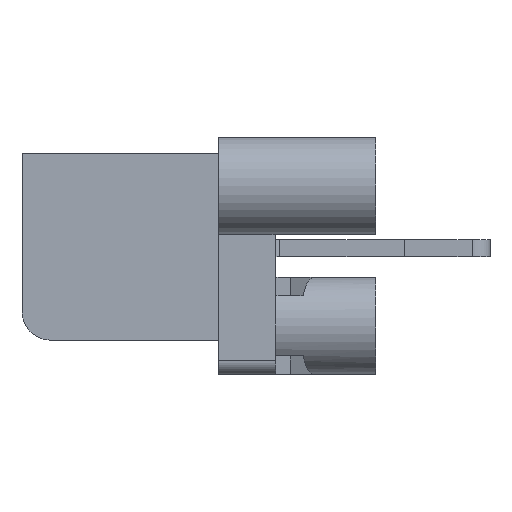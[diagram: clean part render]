
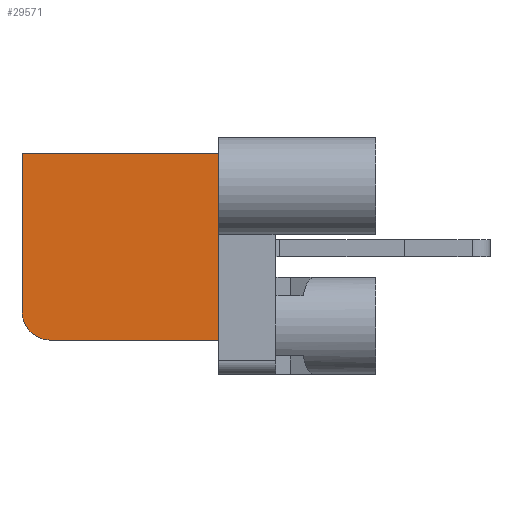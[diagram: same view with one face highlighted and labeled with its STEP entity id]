
A CAD part, left-side view. The second image highlights one B-rep face of the part: STEP entity #29571.
In plain terms, the highlighted planar face has unit normal (-1, 0, 0).
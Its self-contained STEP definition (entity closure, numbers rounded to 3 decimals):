
#11072=DIRECTION('',(0.,-1.,0.));
#11073=VECTOR('',#11072,11.8);
#11074=CARTESIAN_POINT('',(9.3,22.8,-14.15));
#11075=LINE('',#11074,#11073);
#11076=CARTESIAN_POINT('',(9.3,22.8,-12.15));
#11077=DIRECTION('',(-1.,0.,0.));
#11078=DIRECTION('',(0.,1.,0.));
#11079=AXIS2_PLACEMENT_3D('',#11076,#11077,#11078);
#11081=DIRECTION('',(0.,0.,-1.));
#11082=VECTOR('',#11081,11.1);
#11083=CARTESIAN_POINT('',(9.3,24.8,-1.05));
#11084=LINE('',#11083,#11082);
#11085=DIRECTION('',(0.,1.,0.));
#11086=VECTOR('',#11085,13.8);
#11087=CARTESIAN_POINT('',(9.3,11.,-1.05));
#11088=LINE('',#11087,#11086);
#11089=DIRECTION('',(0.,0.,1.));
#11090=VECTOR('',#11089,13.1);
#11091=CARTESIAN_POINT('',(9.3,11.,-14.15));
#11092=LINE('',#11091,#11090);
#11778=CARTESIAN_POINT('',(9.3,11.,-14.15));
#11779=CARTESIAN_POINT('',(9.3,11.,-1.05));
#11780=VERTEX_POINT('',#11778);
#11781=VERTEX_POINT('',#11779);
#11792=CARTESIAN_POINT('',(9.3,22.8,-14.15));
#11793=VERTEX_POINT('',#11792);
#11796=CARTESIAN_POINT('',(9.3,24.8,-1.05));
#11797=CARTESIAN_POINT('',(9.3,24.8,-12.15));
#11798=VERTEX_POINT('',#11796);
#11799=VERTEX_POINT('',#11797);
#29559=CARTESIAN_POINT('',(9.3,11.,-14.15));
#29560=DIRECTION('',(-1.,0.,0.));
#29561=DIRECTION('',(0.,0.,1.));
#29562=AXIS2_PLACEMENT_3D('',#29559,#29560,#29561);
#29563=PLANE('',#29562);
#29564=ORIENTED_EDGE('',*,*,#15316,.F.);
#29565=ORIENTED_EDGE('',*,*,#29552,.F.);
#29566=ORIENTED_EDGE('',*,*,#15215,.F.);
#29567=ORIENTED_EDGE('',*,*,#15176,.F.);
#29568=ORIENTED_EDGE('',*,*,#14474,.F.);
#29569=EDGE_LOOP('',(#29564,#29565,#29566,#29567,#29568));
#29570=FACE_OUTER_BOUND('',#29569,.F.);
#29571=ADVANCED_FACE('',(#29570),#29563,.T.);
#11080=CIRCLE('',#11079,2.);
#14474=EDGE_CURVE('',#11780,#11781,#11092,.T.);
#15176=EDGE_CURVE('',#11781,#11798,#11088,.T.);
#15215=EDGE_CURVE('',#11798,#11799,#11084,.T.);
#15316=EDGE_CURVE('',#11793,#11780,#11075,.T.);
#29552=EDGE_CURVE('',#11799,#11793,#11080,.T.);
